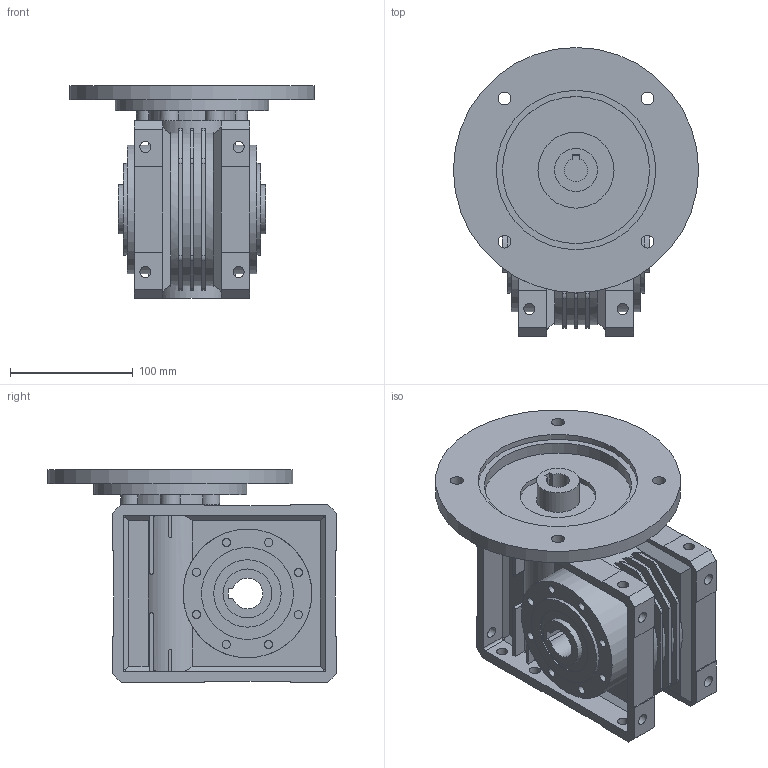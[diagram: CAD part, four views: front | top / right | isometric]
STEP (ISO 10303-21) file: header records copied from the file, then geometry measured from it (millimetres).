
FILE_DESCRIPTION( ( 'Unknown' ), '1' );
FILE_NAME( 'E:/services/configuratordownloads/customers/chiaravalli/ch/download/15D7392CF933F6472C33C06716EDC4E1/STEP/15D7392CF933F6472C33C06716EDC4E1.3d.stp', 'Unknown', ( 'Unknown' ), ( 'Unknown' ), 'PSStep 10.1', 'Unknown', ' ' );
FILE_SCHEMA( ( 'AUTOMOTIVE_DESIGN { 1 0 10303 214 1 1 1 1 }' ) );
Length unit declared in the file: millimetre
Products named in the file (1): CHB06_cassa
Bounding box: 200 x 235.5 x 173.5 mm (x, y, z)
Volume: 1961364.9 mm3; surface area: 300730.8 mm2
Topology: 1 solids, 1 shells, 352 faces, 944 edges, 621 vertices
Faces by surface type: plane 230, cylinder 112, cone 8, bspline 2
Full cylindrical faces by diameter (mm): 6.647 x16, 9 x16, 10.5 x4, 35 x1, 40 x2, 52 x1, 55 x2, 62 x1, 75 x2, 105 x2, 120 x1, 125 x1, 130 x1, 200 x1
Entity records: 14576 total; most frequent: CARTESIAN_POINT 3045, DIRECTION 1804, ORIENTED_EDGE 1720, EDGE_CURVE 860, AXIS2_PLACEMENT_3D 611, VERTEX_POINT 596, LINE 582, VECTOR 582
